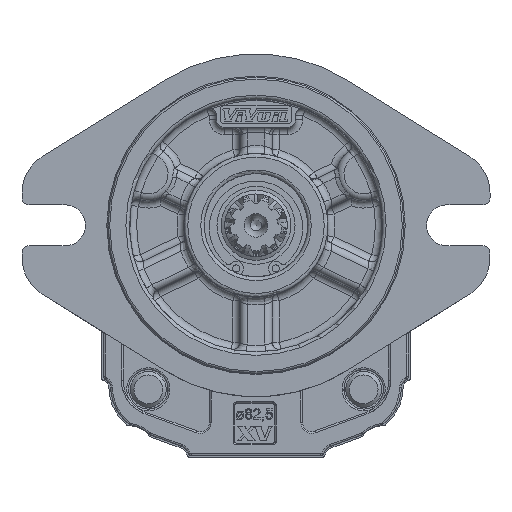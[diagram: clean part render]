
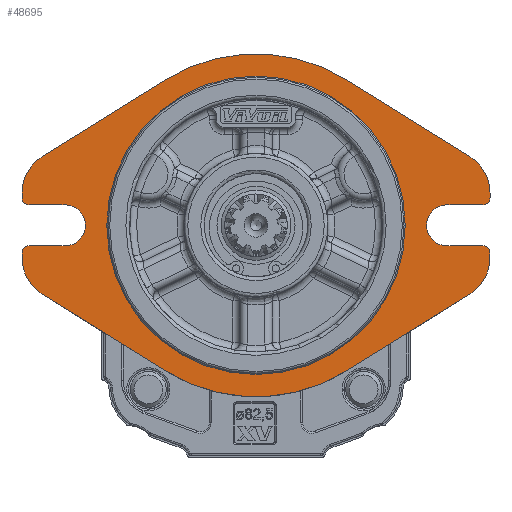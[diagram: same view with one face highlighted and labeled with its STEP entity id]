
A CAD part, front view. The second image highlights one B-rep face of the part: STEP entity #48695.
In plain terms, the highlighted planar face has unit normal (0, -1, 0).
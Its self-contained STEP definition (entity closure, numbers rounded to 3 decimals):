
#2854=LINE('',#68806,#4947);
#2858=LINE('',#68818,#4951);
#2859=LINE('',#68820,#4952);
#2866=LINE('',#68839,#4959);
#2867=LINE('',#68841,#4960);
#2874=LINE('',#68870,#4967);
#2875=LINE('',#68875,#4968);
#2876=LINE('',#68879,#4969);
#2877=LINE('',#68882,#4970);
#2878=LINE('',#68886,#4971);
#2879=LINE('',#68890,#4972);
#2880=LINE('',#68894,#4973);
#4947=VECTOR('',#56123,1000.);
#4951=VECTOR('',#56135,1000.);
#4952=VECTOR('',#56138,1000.);
#4959=VECTOR('',#56153,1000.);
#4960=VECTOR('',#56156,1000.);
#4967=VECTOR('',#56185,1000.);
#4968=VECTOR('',#56188,1000.);
#4969=VECTOR('',#56191,1000.);
#4970=VECTOR('',#56196,1000.);
#4971=VECTOR('',#56199,1000.);
#4972=VECTOR('',#56202,1000.);
#4973=VECTOR('',#56205,1000.);
#6702=PLANE('',#51272);
#10252=ORIENTED_EDGE('',*,*,#19629,.T.);
#10253=ORIENTED_EDGE('',*,*,#19630,.F.);
#10254=ORIENTED_EDGE('',*,*,#19631,.T.);
#10255=ORIENTED_EDGE('',*,*,#19632,.F.);
#10256=ORIENTED_EDGE('',*,*,#19633,.F.);
#10257=ORIENTED_EDGE('',*,*,#19634,.F.);
#10258=ORIENTED_EDGE('',*,*,#19550,.F.);
#10259=ORIENTED_EDGE('',*,*,#19599,.F.);
#10260=ORIENTED_EDGE('',*,*,#19602,.F.);
#10261=ORIENTED_EDGE('',*,*,#19605,.F.);
#10262=ORIENTED_EDGE('',*,*,#19635,.T.);
#10263=ORIENTED_EDGE('',*,*,#19606,.F.);
#10264=ORIENTED_EDGE('',*,*,#19612,.F.);
#10265=ORIENTED_EDGE('',*,*,#19615,.F.);
#10266=ORIENTED_EDGE('',*,*,#19636,.T.);
#10267=ORIENTED_EDGE('',*,*,#19616,.F.);
#10268=ORIENTED_EDGE('',*,*,#19628,.F.);
#10269=ORIENTED_EDGE('',*,*,#19637,.F.);
#10270=ORIENTED_EDGE('',*,*,#19638,.F.);
#10271=ORIENTED_EDGE('',*,*,#19639,.F.);
#10272=ORIENTED_EDGE('',*,*,#19640,.F.);
#10273=ORIENTED_EDGE('',*,*,#19641,.F.);
#10274=ORIENTED_EDGE('',*,*,#19642,.T.);
#10275=ORIENTED_EDGE('',*,*,#19643,.F.);
#10276=ORIENTED_EDGE('',*,*,#19644,.F.);
#19550=EDGE_CURVE('',#24386,#24387,#27198,.T.);
#19599=EDGE_CURVE('',#24429,#24386,#2854,.T.);
#19602=EDGE_CURVE('',#24431,#24429,#27226,.T.);
#19605=EDGE_CURVE('',#24433,#24431,#2858,.T.);
#19606=EDGE_CURVE('',#24434,#24435,#2859,.T.);
#19612=EDGE_CURVE('',#24439,#24434,#27228,.T.);
#19615=EDGE_CURVE('',#24441,#24439,#2866,.T.);
#19616=EDGE_CURVE('',#24442,#24443,#2867,.T.);
#19628=EDGE_CURVE('',#24451,#24442,#27234,.T.);
#19629=EDGE_CURVE('',#24452,#24452,#27235,.T.);
#19630=EDGE_CURVE('',#24453,#24454,#2874,.T.);
#19631=EDGE_CURVE('',#24453,#24455,#27236,.F.);
#19632=EDGE_CURVE('',#24456,#24455,#2875,.T.);
#19633=EDGE_CURVE('',#24457,#24456,#27237,.T.);
#19634=EDGE_CURVE('',#24387,#24457,#2876,.T.);
#19635=EDGE_CURVE('',#24433,#24435,#27238,.F.);
#19636=EDGE_CURVE('',#24441,#24443,#27239,.F.);
#19637=EDGE_CURVE('',#24458,#24451,#2877,.T.);
#19638=EDGE_CURVE('',#24459,#24458,#27240,.T.);
#19639=EDGE_CURVE('',#24460,#24459,#2878,.T.);
#19640=EDGE_CURVE('',#24461,#24460,#27241,.T.);
#19641=EDGE_CURVE('',#24462,#24461,#2879,.T.);
#19642=EDGE_CURVE('',#24462,#24463,#27242,.F.);
#19643=EDGE_CURVE('',#24464,#24463,#2880,.T.);
#19644=EDGE_CURVE('',#24454,#24464,#27243,.T.);
#24386=VERTEX_POINT('',#68681);
#24387=VERTEX_POINT('',#68683);
#24429=VERTEX_POINT('',#68805);
#24431=VERTEX_POINT('',#68811);
#24433=VERTEX_POINT('',#68817);
#24434=VERTEX_POINT('',#68821);
#24435=VERTEX_POINT('',#68822);
#24439=VERTEX_POINT('',#68832);
#24441=VERTEX_POINT('',#68838);
#24442=VERTEX_POINT('',#68842);
#24443=VERTEX_POINT('',#68843);
#24451=VERTEX_POINT('',#68865);
#24452=VERTEX_POINT('',#68869);
#24453=VERTEX_POINT('',#68871);
#24454=VERTEX_POINT('',#68872);
#24455=VERTEX_POINT('',#68874);
#24456=VERTEX_POINT('',#68876);
#24457=VERTEX_POINT('',#68878);
#24458=VERTEX_POINT('',#68883);
#24459=VERTEX_POINT('',#68885);
#24460=VERTEX_POINT('',#68887);
#24461=VERTEX_POINT('',#68889);
#24462=VERTEX_POINT('',#68891);
#24463=VERTEX_POINT('',#68893);
#24464=VERTEX_POINT('',#68895);
#27198=CIRCLE('',#51221,47.75);
#27226=CIRCLE('',#51255,12.);
#27228=CIRCLE('',#51260,5.7);
#27234=CIRCLE('',#51271,12.);
#27235=CIRCLE('',#51273,40.982);
#27236=CIRCLE('',#51274,2.);
#27237=CIRCLE('',#51275,12.);
#27238=CIRCLE('',#51276,2.);
#27239=CIRCLE('',#51277,2.);
#27240=CIRCLE('',#51278,47.75);
#27241=CIRCLE('',#51279,12.);
#27242=CIRCLE('',#51280,2.);
#27243=CIRCLE('',#51281,5.7);
#29058=EDGE_LOOP('',(#10252));
#29059=EDGE_LOOP('',(#10253,#10254,#10255,#10256,#10257,#10258,#10259,#10260,
#10261,#10262,#10263,#10264,#10265,#10266,#10267,#10268,#10269,#10270,#10271,
#10272,#10273,#10274,#10275,#10276));
#31494=FACE_BOUND('',#29058,.T.);
#31495=FACE_BOUND('',#29059,.T.);
#48695=ADVANCED_FACE('',(#31494,#31495),#6702,.F.);
#51221=AXIS2_PLACEMENT_3D('',#68682,#56039,#56040);
#51255=AXIS2_PLACEMENT_3D('',#68812,#56129,#56130);
#51260=AXIS2_PLACEMENT_3D('',#68833,#56147,#56148);
#51271=AXIS2_PLACEMENT_3D('',#68866,#56179,#56180);
#51272=AXIS2_PLACEMENT_3D('',#68867,#56181,#56182);
#51273=AXIS2_PLACEMENT_3D('',#68868,#56183,#56184);
#51274=AXIS2_PLACEMENT_3D('',#68873,#56186,#56187);
#51275=AXIS2_PLACEMENT_3D('',#68877,#56189,#56190);
#51276=AXIS2_PLACEMENT_3D('',#68880,#56192,#56193);
#51277=AXIS2_PLACEMENT_3D('',#68881,#56194,#56195);
#51278=AXIS2_PLACEMENT_3D('',#68884,#56197,#56198);
#51279=AXIS2_PLACEMENT_3D('',#68888,#56200,#56201);
#51280=AXIS2_PLACEMENT_3D('',#68892,#56203,#56204);
#51281=AXIS2_PLACEMENT_3D('',#68896,#56206,#56207);
#56039=DIRECTION('',(0.,1.,0.));
#56040=DIRECTION('',(-1.,0.,0.));
#56123=DIRECTION('',(-0.849,0.,-0.528));
#56129=DIRECTION('',(0.,1.,0.));
#56130=DIRECTION('',(-1.,0.,0.));
#56135=DIRECTION('',(0.,0.,-1.));
#56138=DIRECTION('',(1.,0.,0.));
#56147=DIRECTION('',(0.,-1.,0.));
#56148=DIRECTION('',(1.,0.,0.));
#56153=DIRECTION('',(-1.,0.,0.));
#56156=DIRECTION('',(0.,0.,-1.));
#56179=DIRECTION('',(0.,1.,0.));
#56180=DIRECTION('',(-1.,0.,0.));
#56181=DIRECTION('',(0.,1.,0.));
#56182=DIRECTION('',(0.,0.,-1.));
#56183=DIRECTION('',(0.,1.,0.));
#56184=DIRECTION('',(-1.,0.,0.));
#56185=DIRECTION('',(1.,0.,0.));
#56186=DIRECTION('',(0.,1.,0.));
#56187=DIRECTION('',(0.,0.,-1.));
#56188=DIRECTION('',(0.,0.,1.));
#56189=DIRECTION('',(0.,1.,0.));
#56190=DIRECTION('',(1.,0.,0.));
#56191=DIRECTION('',(-0.849,0.,0.528));
#56192=DIRECTION('',(0.,1.,0.));
#56193=DIRECTION('',(0.,0.,-1.));
#56194=DIRECTION('',(0.,1.,0.));
#56195=DIRECTION('',(0.,0.,-1.));
#56196=DIRECTION('',(0.849,0.,-0.528));
#56197=DIRECTION('',(0.,1.,0.));
#56198=DIRECTION('',(-1.,0.,0.));
#56199=DIRECTION('',(0.849,0.,0.528));
#56200=DIRECTION('',(0.,1.,0.));
#56201=DIRECTION('',(1.,0.,0.));
#56202=DIRECTION('',(0.,0.,1.));
#56203=DIRECTION('',(0.,1.,0.));
#56204=DIRECTION('',(0.,0.,-1.));
#56205=DIRECTION('',(-1.,0.,0.));
#56206=DIRECTION('',(0.,-1.,0.));
#56207=DIRECTION('',(-1.,0.,0.));
#68681=CARTESIAN_POINT('',(25.235,-19.,-24.837));
#68682=CARTESIAN_POINT('',(0.,-19.,15.7));
#68683=CARTESIAN_POINT('',(-25.235,-19.,-24.837));
#68805=CARTESIAN_POINT('',(59.532,-19.,-3.487));
#68806=CARTESIAN_POINT('',(59.532,-19.,-3.487));
#68811=CARTESIAN_POINT('',(65.19,-19.,6.7));
#68812=CARTESIAN_POINT('',(53.19,-19.,6.7));
#68817=CARTESIAN_POINT('',(65.19,-19.,8.));
#68818=CARTESIAN_POINT('',(65.19,-19.,6.7));
#68820=CARTESIAN_POINT('',(53.19,-19.,10.));
#68821=CARTESIAN_POINT('',(53.19,-19.,10.));
#68822=CARTESIAN_POINT('',(63.19,-19.,10.));
#68832=CARTESIAN_POINT('',(53.19,-19.,21.4));
#68833=CARTESIAN_POINT('',(53.19,-19.,15.7));
#68838=CARTESIAN_POINT('',(63.19,-19.,21.4));
#68839=CARTESIAN_POINT('',(53.19,-19.,21.4));
#68841=CARTESIAN_POINT('',(65.19,-19.,24.7));
#68842=CARTESIAN_POINT('',(65.19,-19.,24.7));
#68843=CARTESIAN_POINT('',(65.19,-19.,23.4));
#68865=CARTESIAN_POINT('',(59.532,-19.,34.887));
#68866=CARTESIAN_POINT('',(53.19,-19.,24.7));
#68867=CARTESIAN_POINT('',(0.,-19.,15.7));
#68868=CARTESIAN_POINT('',(0.,-19.,15.7));
#68869=CARTESIAN_POINT('',(-40.982,-19.,15.7));
#68870=CARTESIAN_POINT('',(-53.19,-19.,10.));
#68871=CARTESIAN_POINT('',(-63.19,-19.,10.));
#68872=CARTESIAN_POINT('',(-53.19,-19.,10.));
#68873=CARTESIAN_POINT('',(-63.19,-19.,8.));
#68874=CARTESIAN_POINT('',(-65.19,-19.,8.));
#68875=CARTESIAN_POINT('',(-65.19,-19.,6.7));
#68876=CARTESIAN_POINT('',(-65.19,-19.,6.7));
#68877=CARTESIAN_POINT('',(-53.19,-19.,6.7));
#68878=CARTESIAN_POINT('',(-59.532,-19.,-3.487));
#68879=CARTESIAN_POINT('',(-59.532,-19.,-3.487));
#68880=CARTESIAN_POINT('',(63.19,-19.,8.));
#68881=CARTESIAN_POINT('',(63.19,-19.,23.4));
#68882=CARTESIAN_POINT('',(25.235,-19.,56.237));
#68883=CARTESIAN_POINT('',(25.235,-19.,56.237));
#68884=CARTESIAN_POINT('',(0.,-19.,15.7));
#68885=CARTESIAN_POINT('',(-25.235,-19.,56.237));
#68886=CARTESIAN_POINT('',(-25.235,-19.,56.237));
#68887=CARTESIAN_POINT('',(-59.532,-19.,34.887));
#68888=CARTESIAN_POINT('',(-53.19,-19.,24.7));
#68889=CARTESIAN_POINT('',(-65.19,-19.,24.7));
#68890=CARTESIAN_POINT('',(-65.19,-19.,24.7));
#68891=CARTESIAN_POINT('',(-65.19,-19.,23.4));
#68892=CARTESIAN_POINT('',(-63.19,-19.,23.4));
#68893=CARTESIAN_POINT('',(-63.19,-19.,21.4));
#68894=CARTESIAN_POINT('',(-53.19,-19.,21.4));
#68895=CARTESIAN_POINT('',(-53.19,-19.,21.4));
#68896=CARTESIAN_POINT('',(-53.19,-19.,15.7));
